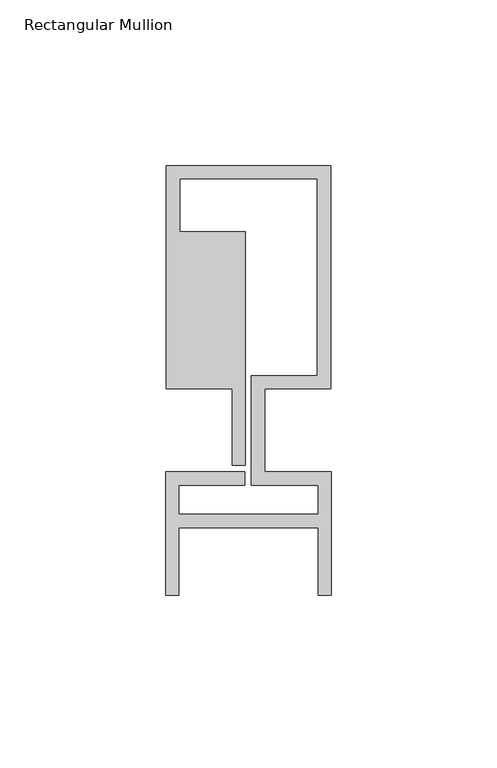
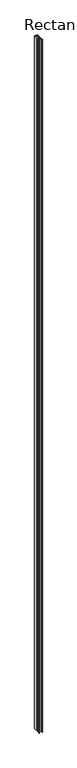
"""IFC4 building model written with IfcOpenShell, lengths in millimetres: member geometry, Rectangular Mullion : Reynaers_CW-50_Mullion-Transom_Horizontal_67.4mm_Facecap-03."""

import ifcopenshell
import ifcopenshell.guid

model = None  # the IFC model being written
_history = None  # IfcOwnerHistory: only IFC2X3 demands one
_inside = {}  # id of a spatial element -> (the spatial element, [elements in it])
_under = {}  # id of a project, library or spatial element -> (it, [spatial elements below it])
_declared = {}  # id of a project -> (the project, [libraries it declares])
_typed = {}  # id of a type object -> (the type object, [elements of that type])
_made_of = {}  # id of a material, layer set ... -> (it, [elements and type objects made of it])


def new_model(schema):
    """Start an empty IFC model of exactly this schema.

    Asked for "IFC4X3", IfcOpenShell would pick the latest addendum, in which some entities
    have other attributes; the version numbers below select the first issue.
    IFC2X3 requires an IfcOwnerHistory on every rooted entity: one is made here for all.
    """
    global model, _history
    if schema == "IFC4X3":
        model = ifcopenshell.file(schema_version=(4, 3, 0, 0))
    else:
        model = ifcopenshell.file(schema=schema)
    _inside.clear()
    _under.clear()
    _declared.clear()
    _typed.clear()
    _made_of.clear()
    _history = None
    if model.schema == "IFC2X3":
        org = make("IfcOrganization", Name="unknown")
        user = make(
            "IfcPersonAndOrganization",
            ThePerson=make("IfcPerson", FamilyName="unknown"),
            TheOrganization=org,
        )
        app = make(
            "IfcApplication",
            ApplicationDeveloper=org,
            Version="unknown",
            ApplicationFullName="unknown",
            ApplicationIdentifier="unknown",
        )
        _history = make(
            "IfcOwnerHistory",
            OwningUser=user,
            OwningApplication=app,
            ChangeAction="ADDED",
            CreationDate=0,
        )
    return model


def make(cls, **values):
    """One entity of the class cls with the attributes given. An attribute that is None is left unset."""
    return model.create_entity(
        cls, **{name: value for name, value in values.items() if value is not None}
    )


def rooted(cls, **values):
    """An entity with a GlobalId (a new one), such as an element, a storey or a relation."""
    return make(cls, GlobalId=ifcopenshell.guid.new(), OwnerHistory=_history, **values)


def si_unit(unit_type, name, prefix=None):
    """IfcSIUnit, for example si_unit("LENGTHUNIT", "METRE", prefix="MILLI")."""
    return make("IfcSIUnit", UnitType=unit_type, Prefix=prefix, Name=name)


def assignment(units):
    """IfcUnitAssignment: the units of a project."""
    return None if units is None else make("IfcUnitAssignment", Units=units)


def point(xyz):
    """IfcCartesianPoint."""
    return None if xyz is None else make("IfcCartesianPoint", Coordinates=xyz)


def direction(xyz):
    """IfcDirection."""
    return None if xyz is None else make("IfcDirection", DirectionRatios=xyz)


def frame(location, z_axis=None, x_axis=None):
    """IfcAxis2Placement3D, a coordinate frame: its origin and axes. An axis left out is left unset."""
    return make(
        "IfcAxis2Placement3D",
        Location=point(location),
        Axis=direction(z_axis),
        RefDirection=direction(x_axis),
    )


def origin():
    """The frame at (0, 0, 0) with its axes left unset."""
    return frame((0.0, 0.0, 0.0))


def place(relative_to, where):
    """IfcLocalPlacement: puts the frame where relative to a parent placement (None: the world)."""
    return make(
        "IfcLocalPlacement", PlacementRelTo=relative_to, RelativePlacement=where
    )


def context(
    kind, dimensions, precision=None, world=None, true_north=None, identifier=None
):
    """IfcGeometricRepresentationContext, for example the 3D "Model" context."""
    return make(
        "IfcGeometricRepresentationContext",
        ContextIdentifier=identifier,
        ContextType=kind,
        CoordinateSpaceDimension=dimensions,
        Precision=precision,
        WorldCoordinateSystem=world,
        TrueNorth=true_north,
    )


def project(units=None, contexts=None):
    """IfcProject with its units and contexts."""
    return rooted(
        "IfcProject",
        Name="project",
        RepresentationContexts=contexts,
        UnitsInContext=assignment(units),
    )


def spatial(cls, under=None, at=None, **own):
    """A site, building, storey or space (cls), placed at a placement, below another one or the project."""
    s = rooted(cls, ObjectPlacement=at, **own)
    if under is not None:
        _under.setdefault(under.id(), (under, []))[1].append(s)
    return s


def polyline(points):
    """IfcPolyline through the points."""
    return make("IfcPolyline", Points=[point(p) for p in points])


def outline(outer, holes=None, kind="AREA"):
    """IfcArbitraryClosedProfileDef: a profile drawn as a closed curve; with holes, ...WithVoids."""
    if holes is None:
        return make("IfcArbitraryClosedProfileDef", ProfileType=kind, OuterCurve=outer)
    return make(
        "IfcArbitraryProfileDefWithVoids",
        ProfileType=kind,
        OuterCurve=outer,
        InnerCurves=holes,
    )


def extrude(swept, where, along, depth):
    """IfcExtrudedAreaSolid: the profile swept, set in the frame where, extruded along a direction by depth."""
    return make(
        "IfcExtrudedAreaSolid",
        SweptArea=swept,
        Position=where,
        ExtrudedDirection=direction(along),
        Depth=depth,
    )


def shape(context_of_items, identifier, shape_type, items):
    """IfcShapeRepresentation: the items that make up one representation, for example the "Body"."""
    return make(
        "IfcShapeRepresentation",
        ContextOfItems=context_of_items,
        RepresentationIdentifier=identifier,
        RepresentationType=shape_type,
        Items=items,
    )


def source(mapping_origin, context_of_items, identifier, shape_type, items):
    """IfcRepresentationMap: a shape defined once, which mapped items show again and again."""
    return make(
        "IfcRepresentationMap",
        MappingOrigin=mapping_origin,
        MappedRepresentation=shape(context_of_items, identifier, shape_type, items),
    )


def transform(
    local_origin,
    x_axis=None,
    y_axis=None,
    z_axis=None,
    scale=None,
    scale2=None,
    scale3=None,
    uniform=True,
):
    """IfcCartesianTransformationOperator3D, or its non-uniform kind. x_axis, y_axis, z_axis: its Axis1, 2, 3."""
    if uniform:
        return make(
            "IfcCartesianTransformationOperator3D",
            Axis1=direction(x_axis),
            Axis2=direction(y_axis),
            LocalOrigin=point(local_origin),
            Scale=scale,
            Axis3=direction(z_axis),
        )
    return make(
        "IfcCartesianTransformationOperator3DnonUniform",
        Axis1=direction(x_axis),
        Axis2=direction(y_axis),
        LocalOrigin=point(local_origin),
        Scale=scale,
        Axis3=direction(z_axis),
        Scale2=scale2,
        Scale3=scale3,
    )


def mapped(mapping_source, mapping_target):
    """IfcMappedItem: shows the shape of a source again, moved by a transform."""
    return make(
        "IfcMappedItem", MappingSource=mapping_source, MappingTarget=mapping_target
    )


def made_of(thing, what):
    """Note that an element or type object is made of a material, layer set ...; save() writes the relation."""
    if what is not None:
        _made_of.setdefault(what.id(), (what, []))[1].append(thing)
    return thing


def element(
    cls,
    number,
    at=None,
    inside=None,
    cuts=None,
    type_object=None,
    material=None,
    context=None,
    identifier="Body",
    shape_type=None,
    held_by="IfcProductDefinitionShape",
    body=None,
    shapes=None,
    **own,
):
    """One element of the class cls, such as IfcWall. Its Tag is "e" and its number.

    at: its placement. inside: the storey or other place that contains it. cuts: it is an
    opening in that element (IfcRelVoidsElement). A single representation is given by context,
    identifier, shape_type and body (its items); several are given by shapes. held_by: the class
    of the entity that holds the representations. save() writes the other relations.
    """
    e = rooted(cls, Tag="e%d" % number, ObjectPlacement=at, **own)
    if body is not None:
        shapes = [shape(context, identifier, shape_type, body)]
    if shapes is not None:
        e.Representation = make(held_by, Representations=shapes)
    if inside is not None:
        _inside.setdefault(inside.id(), (inside, []))[1].append(e)
    if cuts is not None:
        rooted(
            "IfcRelVoidsElement", RelatingBuildingElement=cuts, RelatedOpeningElement=e
        )
    if type_object is not None:
        _typed.setdefault(type_object.id(), (type_object, []))[1].append(e)
    return made_of(e, material)


def aggregate(whole, parts):
    """IfcRelAggregates: a whole, such as a stair, and the parts it consists of."""
    return rooted("IfcRelAggregates", RelatingObject=whole, RelatedObjects=parts)


def save(model, path):
    """Write the relations noted so far, then the file.

    IfcRelAggregates (storeys below a building ...), IfcRelContainedInSpatialStructure (elements
    in a storey), IfcRelDefinesByType, IfcRelAssociatesMaterial and IfcRelDeclares: one each for
    every whole, place, type object, material and project.
    """
    for whole, parts in _under.values():
        aggregate(whole, parts)
    for where, things in _inside.values():
        rooted(
            "IfcRelContainedInSpatialStructure",
            RelatedElements=things,
            RelatingStructure=where,
        )
    for kind, things in _typed.values():
        rooted("IfcRelDefinesByType", RelatedObjects=things, RelatingType=kind)
    for what, things in _made_of.values():
        rooted("IfcRelAssociatesMaterial", RelatedObjects=things, RelatingMaterial=what)
    for by, libraries in _declared.values():
        rooted("IfcRelDeclares", RelatingContext=by, RelatedDefinitions=libraries)
    model.write(path)


def rectangular_mullion_52d2da8f(model_context):
    return source(origin(), model_context, "Body", "SweptSolid", [
        extrude(outline(polyline([(-24.8004059, 79.9), (24.8004059, 79.9), (24.8004059, 12.5), (4.9004059, 12.5), (4.9004059, -12.5), (24.994845, -12.5), (24.994845, -49.8), (20.994845, -49.8), (20.994845, -29.3268728), (-20.994845, -29.3268728), (-20.994845, -49.8), (-24.994845, -49.8), (-24.994845, -12.5), (-1.0995941, -12.5), (-1.0995941, -16.5), (-20.994845, -16.5), (-20.994845, -25.3268728), (20.994845, -25.3268728), (20.994845, -16.5), (0.9004059, -16.5), (0.9004059, 16.5), (20.8004059, 16.5), (20.8004059, 75.9), (-20.8004059, 75.9), (-20.8004059, 60.0), (-0.9004059, 60.0), (-0.9004059, -10.5), (-4.9004059, -10.5), (-4.9004059, 12.5), (-24.8004059, 12.5), (-24.8004059, 79.9)])), frame((0.0, 0.0, -12000.0), z_axis=(0.0, 0.0, 1.0), x_axis=(1.0, 0.0, 0.0)), (0.0, 0.0, 1.0), 12000.0),
    ])


if __name__ == "__main__":
    model = new_model("IFC4")
    model_context = context("Model", 3, world=origin())
    ifc_project = project(units=[si_unit("LENGTHUNIT", "METRE", prefix="MILLI")], contexts=[model_context])
    site = spatial("IfcSite", under=ifc_project)
    building = spatial("IfcBuilding", under=site)
    placement = place(None, origin())
    rectangular_mullion_shape = rectangular_mullion_52d2da8f(model_context)
    element("IfcMember", 1, ObjectType="Rectangular Mullion : Reynaers_CW-50_Mullion-Transom_Horizontal_67.4mm_Facecap-03", at=placement, inside=building, context=model_context, shape_type="MappedRepresentation", body=[
        mapped(rectangular_mullion_shape, transform((0.0, 0.0, 0.0), x_axis=(1.0, 0.0, 0.0), y_axis=(0.0, 1.0, 0.0), z_axis=(0.0, 0.0, 1.0))),
    ])
    save(model, "model.ifc")
